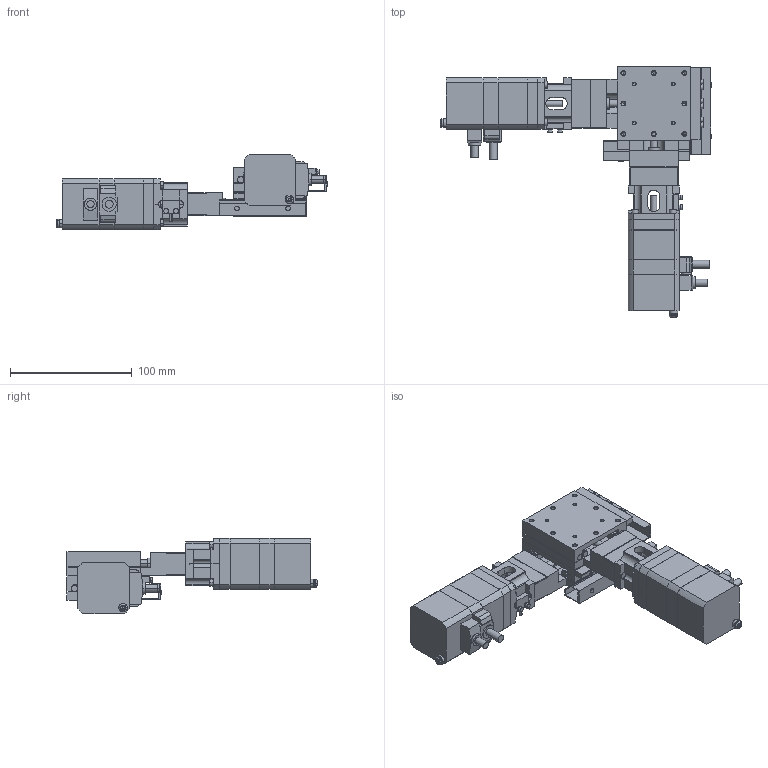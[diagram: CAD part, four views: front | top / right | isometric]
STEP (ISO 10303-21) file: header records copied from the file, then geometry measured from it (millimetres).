
FILE_DESCRIPTION(('STEP AP203'),'1');
FILE_NAME('C:/3D-Trans/3D_PMG615T-L□-MA4+240122.step','2024-03-14T08:04:58',(' '),(' '),'Spatial InterOp 3D',' ',' ');
FILE_SCHEMA(('CONFIG_CONTROL_DESIGN'));
Length unit declared in the file: millimetre
Products named in the file (12): 1; 2; 3; 4; 5; 6; 7; 8; 9; 10; 11; 12
Bounding box: 222.4 x 205 x 62 mm (x, y, z)
Volume: 466583.9 mm3; surface area: 137213.1 mm2
Topology: 12 solids, 12 shells, 1384 faces, 3532 edges, 2218 vertices
Faces by surface type: plane 754, cylinder 462, cone 160, torus 8
Entity records: 42498 total; most frequent: CARTESIAN_POINT 7740, DIRECTION 7340, ORIENTED_EDGE 6952, EDGE_CURVE 3476, AXIS2_PLACEMENT_3D 2500, LINE 2340, VECTOR 2340, VERTEX_POINT 2218
